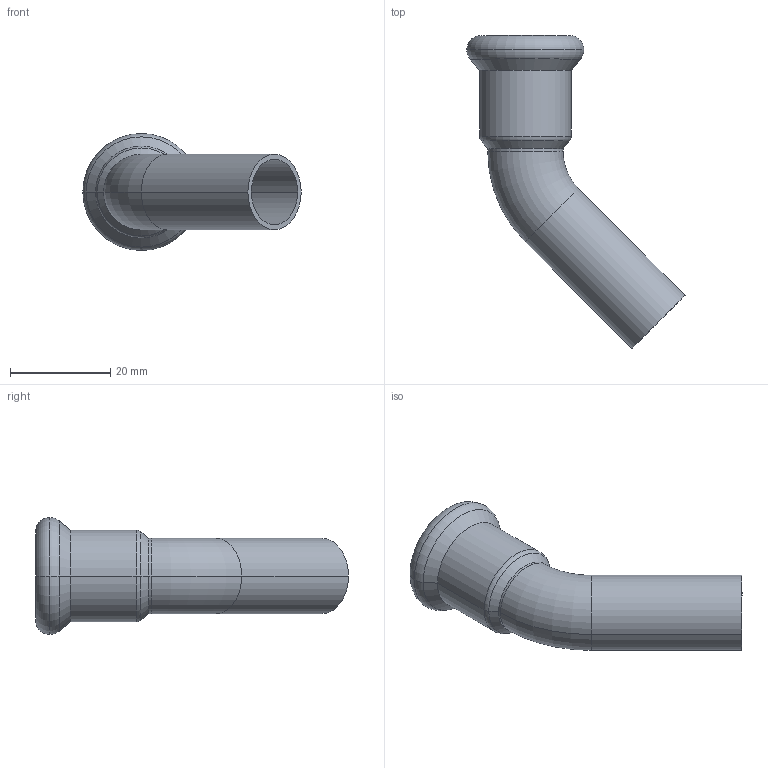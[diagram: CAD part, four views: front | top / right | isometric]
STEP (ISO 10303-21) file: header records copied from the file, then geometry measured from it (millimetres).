
FILE_DESCRIPTION(('OneSpaceDesigner STEP Export'),'2;1');
FILE_NAME('R2712 15x15.stp','2010-06-09T15:18:43',(''),(''),'OneSpace Designer STEP processor for AP214 (Solid Model)','OneSpace Modeling 15.00A 14-Mar-2007 (C) CoCreate Software GmbH','');
FILE_SCHEMA(('AUTOMOTIVE_DESIGN { 1 0 10303 214 1 1 1 1 }'));
Length unit declared in the file: millimetre
Products named in the file (2): R2712_15x15
Assembly tree (1 placements, depth 2):
  R2712_15x15
    R2712_15x15
Bounding box: 43.47 x 62.32 x 23.3 mm (x, y, z)
Volume: 4603.4 mm3; surface area: 6994.3 mm2
Topology: 1 solids, 1 shells, 68 faces, 167 edges, 106 vertices
Faces by surface type: plane 31, cylinder 23, torus 10, cone 4
Entity records: 1823 total; most frequent: ORIENTED_EDGE 334, CARTESIAN_POINT 292, DIRECTION 279, EDGE_CURVE 167, VERTEX_POINT 106, AXIS2_PLACEMENT_3D 93, VECTOR 93, LINE 93
